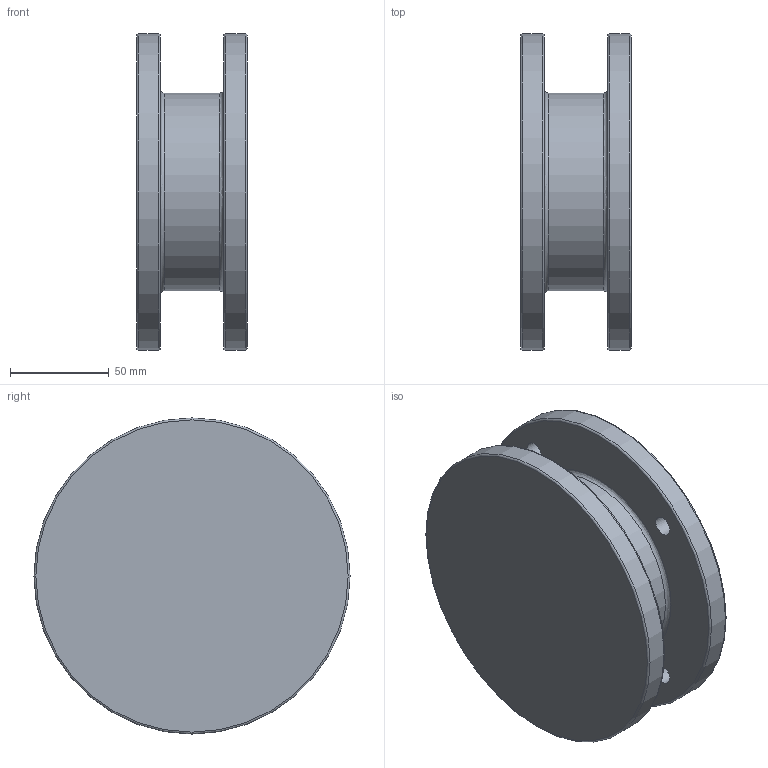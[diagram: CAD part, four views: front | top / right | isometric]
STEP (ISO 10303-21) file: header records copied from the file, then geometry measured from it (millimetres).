
FILE_DESCRIPTION((''),'2;1');
FILE_NAME('D:\PAWEŁ\ZLECENIA\DualSystem\001 Modele\DKAB60_\DK_60_STEP\71_B5_L56.stp','2011-11-25T00:13:37',('Pawe'),(''),'Autodesk Inventor 2009','Autodesk Inventor 2009','');
FILE_SCHEMA(('AUTOMOTIVE_DESIGN { 1 0 10303 214 1 1 1 1 }'));
Length unit declared in the file: millimetre
Products named in the file (1): 71_B5_L56
Bounding box: 56 x 160 x 160 mm (x, y, z)
Volume: 477968.7 mm3; surface area: 103423.6 mm2
Topology: 1 solids, 1 shells, 29 faces, 56 edges, 35 vertices
Faces by surface type: plane 11, cylinder 7, bspline 6, torus 5
Full cylindrical faces by diameter (mm): 30 x1, 88 x1, 100 x2, 160 x2
Entity records: 856 total; most frequent: CARTESIAN_POINT 260, DIRECTION 116, ORIENTED_EDGE 78, EDGE_LOOP 60, AXIS2_PLACEMENT_3D 53, EDGE_CURVE 39, VERTEX_POINT 35, FACE_BOUND 31
